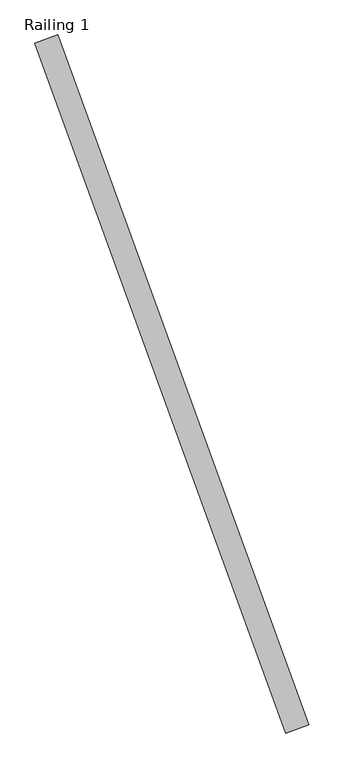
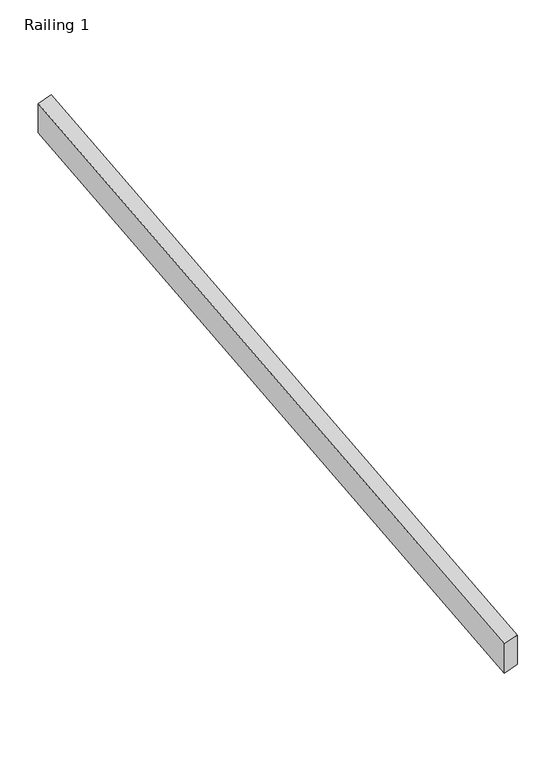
"""IFC4 building model written with IfcOpenShell, lengths in millimetres: railing geometry, Railing 1."""

from ifc_helpers import new_model, si_unit, frame, origin, place, context, project, spatial, polyline, outline, extrude, source, transform, mapped, element, save


def railing_1_110c4a8f(model_context):
    return source(origin(), model_context, "Body", "SweptSolid", [
        extrude(outline(polyline([(-48.2820168, -76.2), (0.0, 0.0), (1809.9461393, 0.0), (1761.6641225, -76.1999999), (-48.2820168, -76.2)])), frame((26624.6141249, 4110.3339549, 3560.0350658), z_axis=(0.9396926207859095, 0.34202014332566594, 0.0), x_axis=(-0.2889074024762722, 0.7937665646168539, 0.5352262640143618)), (0.0, 0.0, 1.0), 50.8),
    ])


if __name__ == "__main__":
    model = new_model("IFC4")
    model_context = context("Model", 3, world=origin())
    ifc_project = project(units=[si_unit("LENGTHUNIT", "METRE", prefix="MILLI")], contexts=[model_context])
    site = spatial("IfcSite", under=ifc_project)
    building = spatial("IfcBuilding", under=site)
    placement = place(None, origin())
    railing_1_shape = railing_1_110c4a8f(model_context)
    element("IfcRailing", 1, ObjectType="Railing 1", at=placement, inside=building, context=model_context, shape_type="MappedRepresentation", body=[
        mapped(railing_1_shape, transform((0.0, 0.0, 0.0), x_axis=(1.0, 0.0, 0.0), y_axis=(0.0, 1.0, 0.0), z_axis=(0.0, 0.0, 1.0))),
    ])
    save(model, "model.ifc")
